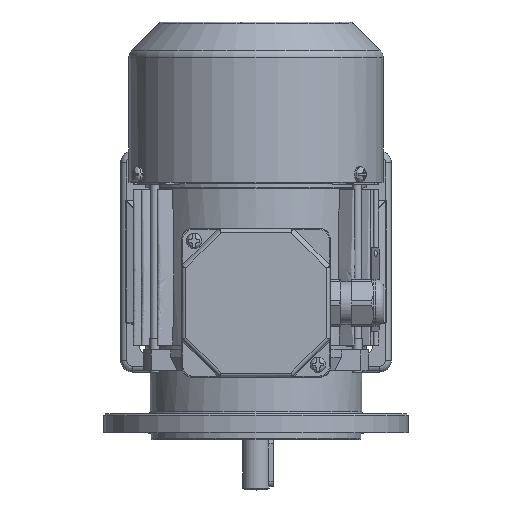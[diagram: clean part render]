
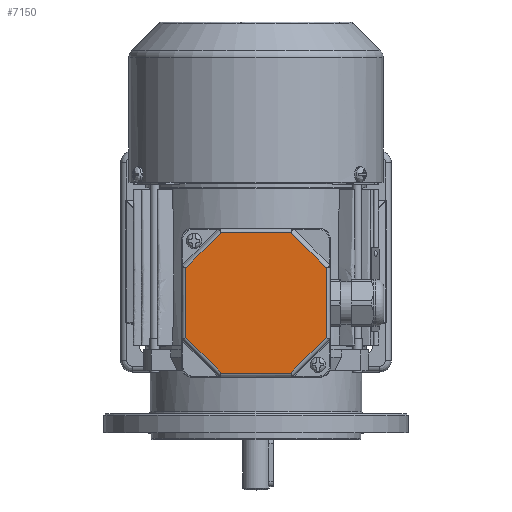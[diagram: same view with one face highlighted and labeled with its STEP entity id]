
A CAD part, top view. The second image highlights one B-rep face of the part: STEP entity #7150.
In plain terms, the highlighted planar face has unit normal (0, 0, 1).
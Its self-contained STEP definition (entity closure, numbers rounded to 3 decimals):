
#7150 = ADVANCED_FACE( '', ( #14519 ), #14520, .T. );
#14519 = FACE_OUTER_BOUND( '', #52512, .T. );
#14520 = PLANE( '', #52513 );
#52512 = EDGE_LOOP( '', ( #77177, #77178, #77179, #77180, #77181, #77182, #77183, #77184 ) );
#52513 = AXIS2_PLACEMENT_3D( '', #77185, #77186, #77187 );
#77177 = ORIENTED_EDGE( '', *, *, #85105, .T. );
#77178 = ORIENTED_EDGE( '', *, *, #85689, .T. );
#77179 = ORIENTED_EDGE( '', *, *, #84727, .T. );
#77180 = ORIENTED_EDGE( '', *, *, #88505, .T. );
#77181 = ORIENTED_EDGE( '', *, *, #84590, .T. );
#77182 = ORIENTED_EDGE( '', *, *, #88253, .T. );
#77183 = ORIENTED_EDGE( '', *, *, #87936, .T. );
#77184 = ORIENTED_EDGE( '', *, *, #84799, .T. );
#77185 = CARTESIAN_POINT( '', ( -39., 39., 12. ) );
#77186 = DIRECTION( '', ( 0., 0., 1. ) );
#77187 = DIRECTION( '', ( 1., 0., 0. ) );
#84590 = EDGE_CURVE( '', #95923, #95924, #95925, .F. );
#84727 = EDGE_CURVE( '', #96112, #96113, #96114, .F. );
#84799 = EDGE_CURVE( '', #95405, #93235, #96219, .T. );
#85105 = EDGE_CURVE( '', #93235, #93729, #96679, .F. );
#85689 = EDGE_CURVE( '', #93729, #96112, #97482, .T. );
#87936 = EDGE_CURVE( '', #97641, #95405, #100414, .F. );
#88253 = EDGE_CURVE( '', #95924, #97641, #100772, .T. );
#88505 = EDGE_CURVE( '', #96113, #95923, #101052, .T. );
#93235 = VERTEX_POINT( '', #116801 );
#93729 = VERTEX_POINT( '', #117847 );
#95405 = VERTEX_POINT( '', #123892 );
#95923 = VERTEX_POINT( '', #125826 );
#95924 = VERTEX_POINT( '', #125827 );
#95925 = LINE( '', #125828, #125829 );
#96112 = VERTEX_POINT( '', #126413 );
#96113 = VERTEX_POINT( '', #126414 );
#96114 = LINE( '', #126415, #126416 );
#96219 = LINE( '', #126690, #126691 );
#96679 = LINE( '', #128097, #128098 );
#97482 = LINE( '', #131133, #131134 );
#97641 = VERTEX_POINT( '', #131501 );
#100414 = LINE( '', #140978, #140979 );
#100772 = LINE( '', #142033, #142034 );
#101052 = LINE( '', #142589, #142590 );
#116801 = CARTESIAN_POINT( '', ( 36.825, -18.255, 12. ) );
#117847 = CARTESIAN_POINT( '', ( 36.825, 18.255, 12. ) );
#123892 = CARTESIAN_POINT( '', ( 18.255, -36.825, 12. ) );
#125826 = CARTESIAN_POINT( '', ( -36.825, 18.255, 12. ) );
#125827 = CARTESIAN_POINT( '', ( -36.825, -18.255, 12. ) );
#125828 = CARTESIAN_POINT( '', ( -36.825, -19.069, 12. ) );
#125829 = VECTOR( '', #148313, 1000. );
#126413 = CARTESIAN_POINT( '', ( 18.255, 36.825, 12. ) );
#126414 = CARTESIAN_POINT( '', ( -18.255, 36.825, 12. ) );
#126415 = CARTESIAN_POINT( '', ( -19.069, 36.825, 12. ) );
#126416 = VECTOR( '', #148430, 1000. );
#126690 = CARTESIAN_POINT( '', ( 37.401, -17.679, 12. ) );
#126691 = VECTOR( '', #148523, 1000. );
#128097 = CARTESIAN_POINT( '', ( 36.825, 19.069, 12. ) );
#128098 = VECTOR( '', #148844, 1000. );
#131133 = CARTESIAN_POINT( '', ( 17.679, 37.401, 12. ) );
#131134 = VECTOR( '', #149448, 1000. );
#131501 = CARTESIAN_POINT( '', ( -18.255, -36.825, 12. ) );
#140978 = CARTESIAN_POINT( '', ( 19.069, -36.825, 12. ) );
#140979 = VECTOR( '', #151869, 1000. );
#142033 = CARTESIAN_POINT( '', ( -17.679, -37.401, 12. ) );
#142034 = VECTOR( '', #152136, 1000. );
#142589 = CARTESIAN_POINT( '', ( -37.401, 17.679, 12. ) );
#142590 = VECTOR( '', #152332, 1000. );
#148313 = DIRECTION( '', ( 0., 1., 0. ) );
#148430 = DIRECTION( '', ( 1., 0., 0. ) );
#148523 = DIRECTION( '', ( 0.707, 0.707, 0. ) );
#148844 = DIRECTION( '', ( 0., -1., 0. ) );
#149448 = DIRECTION( '', ( -0.707, 0.707, 0. ) );
#151869 = DIRECTION( '', ( -1., 0., 0. ) );
#152136 = DIRECTION( '', ( 0.707, -0.707, 0. ) );
#152332 = DIRECTION( '', ( -0.707, -0.707, 0. ) );
